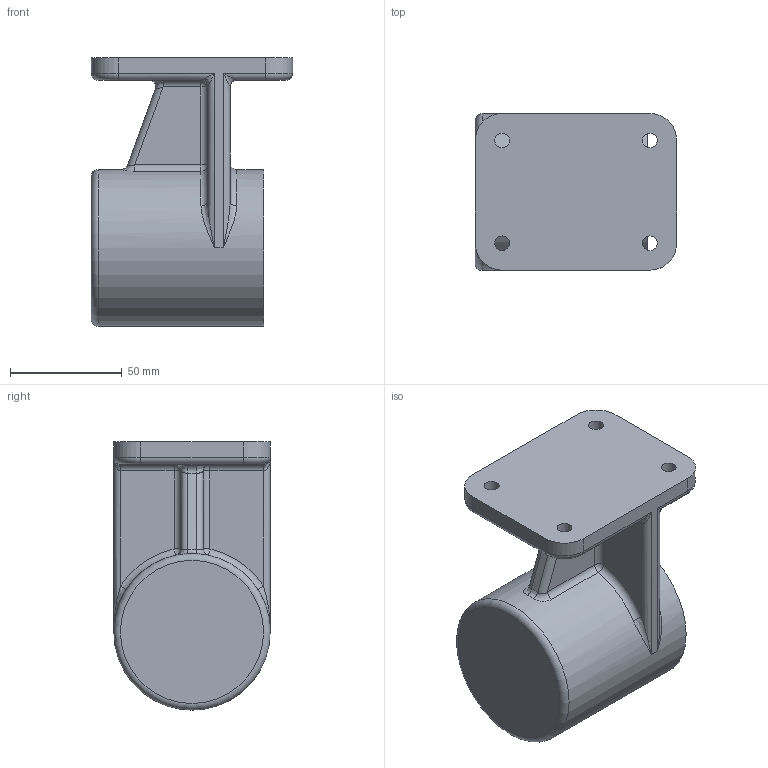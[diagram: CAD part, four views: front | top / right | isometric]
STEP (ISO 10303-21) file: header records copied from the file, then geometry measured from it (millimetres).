
FILE_DESCRIPTION((''),'2;1');
FILE_NAME('C:\Users\dgall\Desktop\390309E1002\1번.stp','2019-03-09T11:08:04',('dgall'),(''),'Autodesk Inventor 2013','Autodesk Inventor 2013','');
FILE_SCHEMA(('AUTOMOTIVE_DESIGN { 1 0 10303 214 1 1 1 1 }'));
Length unit declared in the file: millimetre
Products named in the file (1): 1번
Bounding box: 90 x 70 x 120 mm (x, y, z)
Volume: 273592.1 mm3; surface area: 60378.5 mm2
Topology: 1 solids, 1 shells, 101 faces, 218 edges, 121 vertices
Faces by surface type: cylinder 43, plane 24, bspline 13, torus 11, cone 6, sphere 4
Full cylindrical faces by diameter (mm): 4.134 x4, 6.6 x4, 16 x4, 35 x1, 36 x1, 47 x1, 55 x1, 70 x1
Entity records: 3050 total; most frequent: CARTESIAN_POINT 983, DIRECTION 454, ORIENTED_EDGE 358, AXIS2_PLACEMENT_3D 198, EDGE_CURVE 179, EDGE_LOOP 146, VERTEX_POINT 117, FACE_OUTER_BOUND 101
